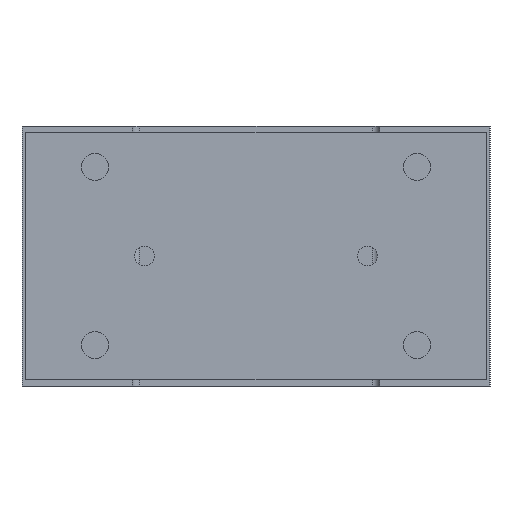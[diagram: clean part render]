
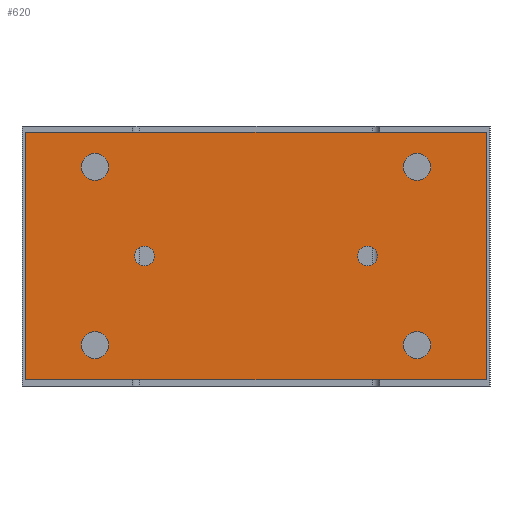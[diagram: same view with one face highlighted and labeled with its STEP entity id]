
A CAD part, left-side view. The second image highlights one B-rep face of the part: STEP entity #620.
In plain terms, the highlighted planar face has unit normal (-1, 0, 0).
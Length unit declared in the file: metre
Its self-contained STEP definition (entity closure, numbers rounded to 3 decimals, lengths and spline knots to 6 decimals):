
#620 = ADVANCED_FACE( '', ( #1391, #1392, #1393, #1394, #1395, #1396, #1397 ), #1398, .T. );
#1391 = FACE_BOUND( '', #2195, .T. );
#1392 = FACE_BOUND( '', #2196, .T. );
#1393 = FACE_BOUND( '', #2197, .T. );
#1394 = FACE_BOUND( '', #2198, .T. );
#1395 = FACE_BOUND( '', #2199, .T. );
#1396 = FACE_BOUND( '', #2200, .T. );
#1397 = FACE_OUTER_BOUND( '', #2201, .T. );
#1398 = PLANE( '', #2202 );
#2195 = EDGE_LOOP( '', ( #3656 ) );
#2196 = EDGE_LOOP( '', ( #3657 ) );
#2197 = EDGE_LOOP( '', ( #3658 ) );
#2198 = EDGE_LOOP( '', ( #3659 ) );
#2199 = EDGE_LOOP( '', ( #3660 ) );
#2200 = EDGE_LOOP( '', ( #3661 ) );
#2201 = EDGE_LOOP( '', ( #3662, #3663, #3664, #3665 ) );
#2202 = AXIS2_PLACEMENT_3D( '', #3666, #3667, #3668 );
#3656 = ORIENTED_EDGE( '', *, *, #4038, .F. );
#3657 = ORIENTED_EDGE( '', *, *, #4341, .F. );
#3658 = ORIENTED_EDGE( '', *, *, #4232, .F. );
#3659 = ORIENTED_EDGE( '', *, *, #4224, .F. );
#3660 = ORIENTED_EDGE( '', *, *, #3933, .F. );
#3661 = ORIENTED_EDGE( '', *, *, #3947, .T. );
#3662 = ORIENTED_EDGE( '', *, *, #4208, .T. );
#3663 = ORIENTED_EDGE( '', *, *, #4261, .T. );
#3664 = ORIENTED_EDGE( '', *, *, #4328, .T. );
#3665 = ORIENTED_EDGE( '', *, *, #4055, .T. );
#3666 = CARTESIAN_POINT( '', ( -0.135, 0.093, -0.1025 ) );
#3667 = DIRECTION( '', ( -1., 0., 0. ) );
#3668 = DIRECTION( '', ( 0., 0., -1. ) );
#3933 = EDGE_CURVE( '', #4579, #4579, #4580, .T. );
#3947 = EDGE_CURVE( '', #4603, #4603, #4604, .T. );
#4038 = EDGE_CURVE( '', #4752, #4752, #4753, .T. );
#4055 = EDGE_CURVE( '', #4778, #4776, #4779, .T. );
#4208 = EDGE_CURVE( '', #4776, #4998, #5000, .T. );
#4224 = EDGE_CURVE( '', #5018, #5018, #5019, .T. );
#4232 = EDGE_CURVE( '', #5031, #5031, #5032, .T. );
#4261 = EDGE_CURVE( '', #4998, #5070, #5072, .T. );
#4328 = EDGE_CURVE( '', #5070, #4778, #5154, .T. );
#4341 = EDGE_CURVE( '', #5169, #5169, #5170, .T. );
#4579 = VERTEX_POINT( '', #5558 );
#4580 = CIRCLE( '', #5559, 0.004 );
#4603 = VERTEX_POINT( '', #5591 );
#4604 = CIRCLE( '', #5592, 0.004 );
#4752 = VERTEX_POINT( '', #5784 );
#4753 = CIRCLE( '', #5785, 0.0055 );
#4776 = VERTEX_POINT( '', #5814 );
#4778 = VERTEX_POINT( '', #5817 );
#4779 = LINE( '', #5818, #5819 );
#4998 = VERTEX_POINT( '', #6189 );
#5000 = LINE( '', #6192, #6193 );
#5018 = VERTEX_POINT( '', #6218 );
#5019 = CIRCLE( '', #6219, 0.0055 );
#5031 = VERTEX_POINT( '', #6231 );
#5032 = CIRCLE( '', #6232, 0.0055 );
#5070 = VERTEX_POINT( '', #6278 );
#5072 = LINE( '', #6281, #6282 );
#5154 = LINE( '', #6412, #6413 );
#5169 = VERTEX_POINT( '', #6462 );
#5170 = CIRCLE( '', #6463, 0.0055 );
#5558 = CARTESIAN_POINT( '', ( -0.135, 0.041, -0.0525 ) );
#5559 = AXIS2_PLACEMENT_3D( '', #6654, #6655, #6656 );
#5591 = CARTESIAN_POINT( '', ( -0.135, -0.041, -0.0525 ) );
#5592 = AXIS2_PLACEMENT_3D( '', #6669, #6670, #6671 );
#5784 = CARTESIAN_POINT( '', ( -0.135, 0.0595, -0.0165 ) );
#5785 = AXIS2_PLACEMENT_3D( '', #6782, #6783, #6784 );
#5814 = CARTESIAN_POINT( '', ( -0.135, 0.093, -0.0025 ) );
#5817 = CARTESIAN_POINT( '', ( -0.135, -0.093, -0.0025 ) );
#5818 = CARTESIAN_POINT( '', ( -0.135, -0.093, -0.0025 ) );
#5819 = VECTOR( '', #6804, 1. );
#6189 = CARTESIAN_POINT( '', ( -0.135, 0.093, -0.1025 ) );
#6192 = CARTESIAN_POINT( '', ( -0.135, 0.093, -0.0025 ) );
#6193 = VECTOR( '', #6981, 1. );
#6218 = CARTESIAN_POINT( '', ( -0.135, -0.0705, -0.0885 ) );
#6219 = AXIS2_PLACEMENT_3D( '', #6989, #6990, #6991 );
#6231 = CARTESIAN_POINT( '', ( -0.135, 0.0595, -0.0885 ) );
#6232 = AXIS2_PLACEMENT_3D( '', #7004, #7005, #7006 );
#6278 = CARTESIAN_POINT( '', ( -0.135, -0.093, -0.1025 ) );
#6281 = CARTESIAN_POINT( '', ( -0.135, 0.093, -0.1025 ) );
#6282 = VECTOR( '', #7037, 1. );
#6412 = CARTESIAN_POINT( '', ( -0.135, -0.093, -0.1025 ) );
#6413 = VECTOR( '', #7089, 1. );
#6462 = CARTESIAN_POINT( '', ( -0.135, -0.0705, -0.0165 ) );
#6463 = AXIS2_PLACEMENT_3D( '', #7094, #7095, #7096 );
#6654 = CARTESIAN_POINT( '', ( -0.135, 0.045, -0.0525 ) );
#6655 = DIRECTION( '', ( -1., 0., 0. ) );
#6656 = DIRECTION( '', ( 0., -1., 0. ) );
#6669 = CARTESIAN_POINT( '', ( -0.135, -0.045, -0.0525 ) );
#6670 = DIRECTION( '', ( 1., 0., 0. ) );
#6671 = DIRECTION( '', ( 0., 1., 0. ) );
#6782 = CARTESIAN_POINT( '', ( -0.135, 0.065, -0.0165 ) );
#6783 = DIRECTION( '', ( -1., 0., 0. ) );
#6784 = DIRECTION( '', ( 0., -1., 0. ) );
#6804 = DIRECTION( '', ( 0., 1., 0. ) );
#6981 = DIRECTION( '', ( 0., 0., -1. ) );
#6989 = CARTESIAN_POINT( '', ( -0.135, -0.065, -0.0885 ) );
#6990 = DIRECTION( '', ( -1., 0., 0. ) );
#6991 = DIRECTION( '', ( 0., -1., 0. ) );
#7004 = CARTESIAN_POINT( '', ( -0.135, 0.065, -0.0885 ) );
#7005 = DIRECTION( '', ( -1., 0., 0. ) );
#7006 = DIRECTION( '', ( 0., -1., 0. ) );
#7037 = DIRECTION( '', ( 0., -1., 0. ) );
#7089 = DIRECTION( '', ( 0., 0., 1. ) );
#7094 = CARTESIAN_POINT( '', ( -0.135, -0.065, -0.0165 ) );
#7095 = DIRECTION( '', ( -1., 0., 0. ) );
#7096 = DIRECTION( '', ( 0., -1., 0. ) );
